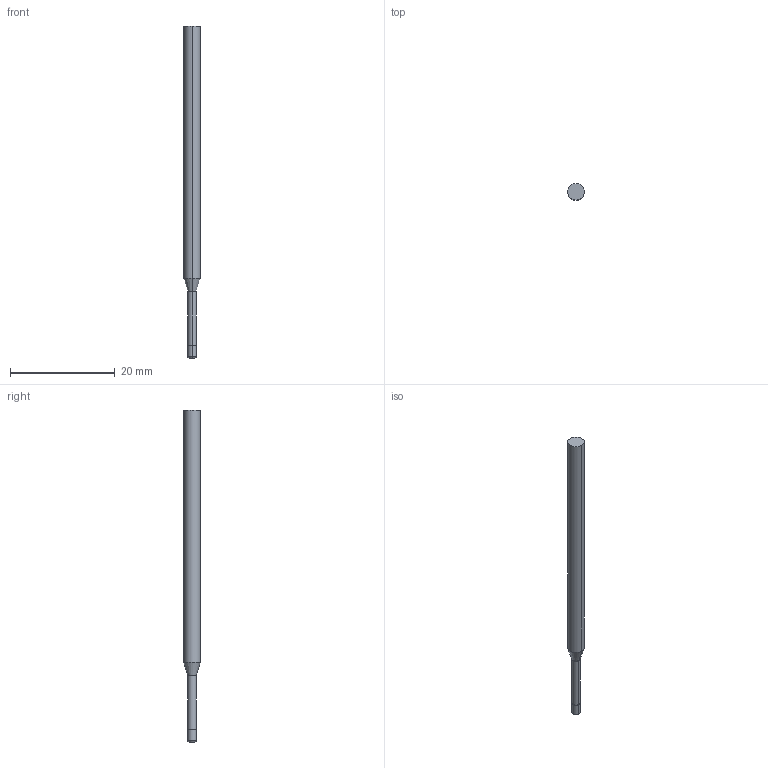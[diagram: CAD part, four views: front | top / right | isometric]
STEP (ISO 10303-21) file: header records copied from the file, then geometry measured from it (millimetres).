
FILE_DESCRIPTION((' '),'2;1');
FILE_NAME( '3MVS0625R.010N8AH.stp', '2026-01-21T19:08:16', (' '), ('--- Datakit www.datakit.com---'), ' Datakit CrossCadWare V2025.4 Sep 19 2025', 'Mastercam 2027', ' ');
FILE_SCHEMA(('AUTOMOTIVE_DESIGN { 1 0 10303 214 1 1 1 1 }'));
Length unit declared in the file: inch
Products named in the file (1): 3MVS0625R
Bounding box: 3.17 x 3.17 x 63.5 mm (x, y, z)
Volume: 418.7 mm3; surface area: 573.8 mm2
Topology: 1 solids, 1 shells, 12 faces, 22 edges, 12 vertices
Faces by surface type: cylinder 6, plane 2, torus 2, cone 2
Entity records: 377 total; most frequent: DIRECTION 70, CARTESIAN_POINT 51, ORIENTED_EDGE 44, AXIS2_PLACEMENT_3D 31, EDGE_CURVE 22, CIRCLE 14, VERTEX_POINT 12, EDGE_LOOP 12
